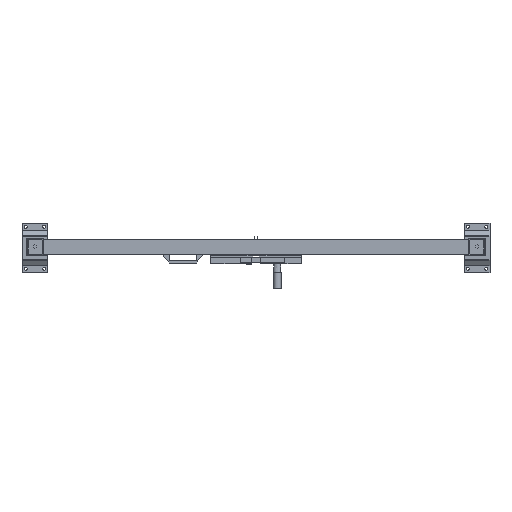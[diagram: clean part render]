
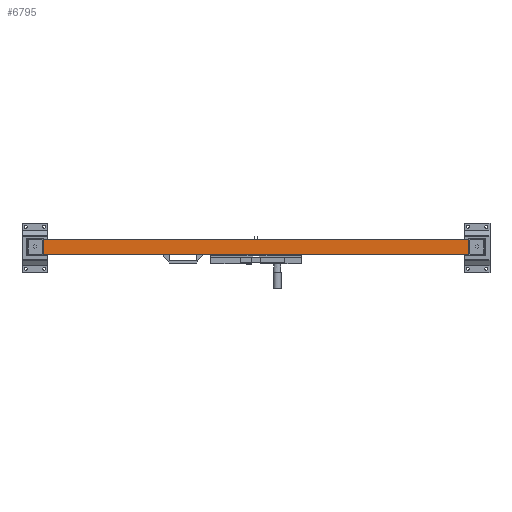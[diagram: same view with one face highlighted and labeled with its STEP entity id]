
A CAD part, top view. The second image highlights one B-rep face of the part: STEP entity #6795.
In plain terms, the highlighted planar face has unit normal (0, 0, 1).
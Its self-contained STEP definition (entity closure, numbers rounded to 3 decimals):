
#734=FACE_OUTER_BOUND('',#1077,.T.);
#1077=EDGE_LOOP('',(#4839,#4840,#4841,#4842));
#1510=LINE('',#9580,#2359);
#1511=LINE('',#9583,#2360);
#1512=LINE('',#9585,#2361);
#1513=LINE('',#9586,#2362);
#2359=VECTOR('',#7738,1.);
#2360=VECTOR('',#7741,1.);
#2361=VECTOR('',#7742,1.);
#2362=VECTOR('',#7743,1.);
#3185=VERTEX_POINT('',#9573);
#3188=VERTEX_POINT('',#9578);
#3189=VERTEX_POINT('',#9582);
#3190=VERTEX_POINT('',#9584);
#3859=EDGE_CURVE('',#3185,#3188,#1510,.T.);
#3860=EDGE_CURVE('',#3189,#3185,#1511,.T.);
#3861=EDGE_CURVE('',#3190,#3188,#1512,.T.);
#3862=EDGE_CURVE('',#3189,#3190,#1513,.T.);
#4839=ORIENTED_EDGE('',*,*,#3860,.T.);
#4840=ORIENTED_EDGE('',*,*,#3859,.T.);
#4841=ORIENTED_EDGE('',*,*,#3861,.F.);
#4842=ORIENTED_EDGE('',*,*,#3862,.F.);
#6494=PLANE('',#7165);
#6795=ADVANCED_FACE('',(#734),#6494,.T.);
#7165=AXIS2_PLACEMENT_3D('',#9581,#7739,#7740);
#7738=DIRECTION('',(1.,0.,0.));
#7739=DIRECTION('center_axis',(0.,0.,1.));
#7740=DIRECTION('ref_axis',(0.,-1.,0.));
#7741=DIRECTION('',(0.,-1.,0.));
#7742=DIRECTION('',(0.,-1.,0.));
#7743=DIRECTION('',(1.,0.,0.));
#9573=CARTESIAN_POINT('',(1904.435,1615.894,2399.));
#9578=CARTESIAN_POINT('',(3544.435,1615.894,2399.));
#9580=CARTESIAN_POINT('',(1904.435,1615.894,2399.));
#9581=CARTESIAN_POINT('Origin',(1904.435,1675.894,2399.));
#9582=CARTESIAN_POINT('',(1904.435,1675.894,2399.));
#9583=CARTESIAN_POINT('',(1904.435,1675.894,2399.));
#9584=CARTESIAN_POINT('',(3544.435,1675.894,2399.));
#9585=CARTESIAN_POINT('',(3544.435,1675.894,2399.));
#9586=CARTESIAN_POINT('',(1904.435,1675.894,2399.));
